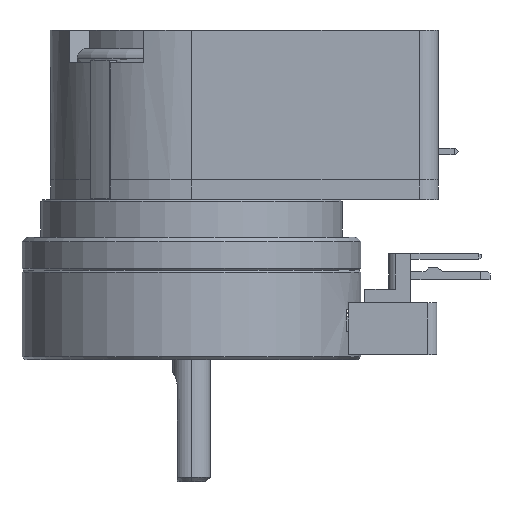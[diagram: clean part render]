
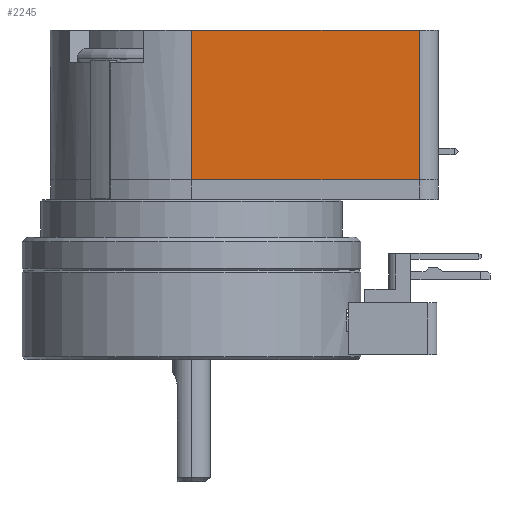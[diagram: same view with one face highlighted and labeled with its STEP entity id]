
A CAD part, left-side view. The second image highlights one B-rep face of the part: STEP entity #2245.
In plain terms, the highlighted planar face has unit normal (-1, 0, 0).
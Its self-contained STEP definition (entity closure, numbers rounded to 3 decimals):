
#1371 = ORIENTED_EDGE ( 'NONE', *, *, #2968, .F. ) ;
#1372 = ORIENTED_EDGE ( 'NONE', *, *, #2969, .T. ) ;
#1373 = ORIENTED_EDGE ( 'NONE', *, *, #2970, .T. ) ;
#1374 = ORIENTED_EDGE ( 'NONE', *, *, #2966, .F. ) ;
#1454 = VERTEX_POINT ( 'NONE', #4627 ) ;
#1455 = VERTEX_POINT ( 'NONE', #4628 ) ;
#1459 = VERTEX_POINT ( 'NONE', #4632 ) ;
#1461 = VERTEX_POINT ( 'NONE', #4634 ) ;
#2245 = ADVANCED_FACE ( 'NONE', ( #11624 ), #11419, .F. ) ;
#2966 = EDGE_CURVE ( 'NONE', #1455, #1459, #16070, .T. ) ;
#2968 = EDGE_CURVE ( 'NONE', #1454, #1455, #16091, .T. ) ;
#2969 = EDGE_CURVE ( 'NONE', #1454, #1461, #16088, .T. ) ;
#2970 = EDGE_CURVE ( 'NONE', #1461, #1459, #16094, .T. ) ;
#4043 = EDGE_LOOP ( 'NONE', ( #1371, #1372, #1373, #1374 ) ) ;
#4627 = CARTESIAN_POINT ( 'NONE',  ( -16.546, -18.415, 14.207 ) ) ;
#4628 = CARTESIAN_POINT ( 'NONE',  ( -16.546, 5.785, 14.207 ) ) ;
#4632 = CARTESIAN_POINT ( 'NONE',  ( -16.546, 5.785, 30.107 ) ) ;
#4634 = CARTESIAN_POINT ( 'NONE',  ( -16.546, -18.415, 30.107 ) ) ;
#10478 = AXIS2_PLACEMENT_3D ( 'NONE', #11427, #11428, #11429 ) ;
#11419 = PLANE ( 'NONE',  #10478 ) ;
#11427 = CARTESIAN_POINT ( 'NONE',  ( -16.546, -20.415, 14.207 ) ) ;
#11428 = DIRECTION ( 'NONE',  ( 1., 0., 0. ) ) ;
#11429 = DIRECTION ( 'NONE',  ( 0., 0., -1. ) ) ;
#11624 = FACE_OUTER_BOUND ( 'NONE', #4043, .T. ) ;
#15817 = DIRECTION ( 'NONE',  ( 0., 0., 1. ) ) ;
#15827 = DIRECTION ( 'NONE',  ( 0., 1., 0. ) ) ;
#15828 = CARTESIAN_POINT ( 'NONE',  ( -16.546, -20.415, 14.207 ) ) ;
#15829 = CARTESIAN_POINT ( 'NONE',  ( -16.546, 5.785, 14.207 ) ) ;
#15833 = CARTESIAN_POINT ( 'NONE',  ( -16.546, -18.415, 14.207 ) ) ;
#15838 = DIRECTION ( 'NONE',  ( 0., 0., 1. ) ) ;
#15839 = CARTESIAN_POINT ( 'NONE',  ( -16.546, -20.415, 30.107 ) ) ;
#15840 = DIRECTION ( 'NONE',  ( 0., 1., 0. ) ) ;
#16070 = LINE ( 'NONE', #15829, #16090 ) ;
#16088 = LINE ( 'NONE', #15833, #16095 ) ;
#16090 = VECTOR ( 'NONE', #15817, 1000. ) ;
#16091 = LINE ( 'NONE', #15828, #16093 ) ;
#16093 = VECTOR ( 'NONE', #15827, 1000. ) ;
#16094 = LINE ( 'NONE', #15839, #16097 ) ;
#16095 = VECTOR ( 'NONE', #15838, 1000. ) ;
#16097 = VECTOR ( 'NONE', #15840, 1000. ) ;
